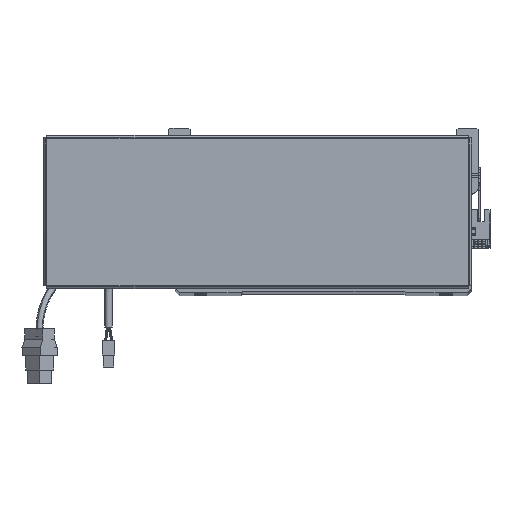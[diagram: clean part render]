
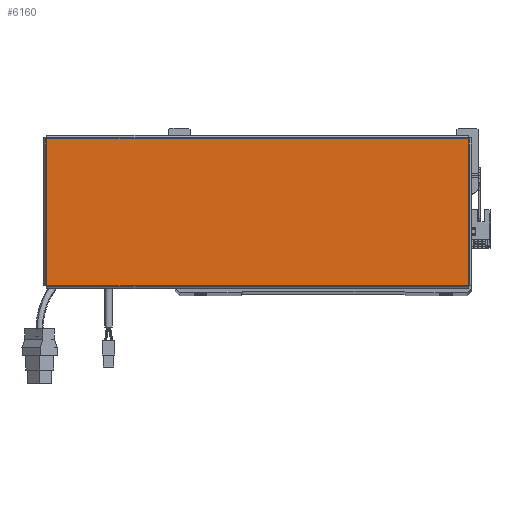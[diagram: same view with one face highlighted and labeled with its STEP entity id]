
A CAD part, top view. The second image highlights one B-rep face of the part: STEP entity #6160.
In plain terms, the highlighted planar face has unit normal (0, 0, 1).
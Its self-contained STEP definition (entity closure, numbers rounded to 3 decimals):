
#806 = DIRECTION ( 'NONE',  ( 0., 1., 0. ) ) ;
#1275 = CARTESIAN_POINT ( 'NONE',  ( 156.513, -54.793, 0. ) ) ;
#1489 = DIRECTION ( 'NONE',  ( 1., 0., 0. ) ) ;
#3374 = VECTOR ( 'NONE', #67604, 1000. ) ;
#4334 = LINE ( 'NONE', #50986, #48387 ) ;
#6160 = ADVANCED_FACE ( 'NONE', ( #29387 ), #44161, .T. ) ;
#7348 = AXIS2_PLACEMENT_3D ( 'NONE', #65763, #17619, #1489 ) ;
#10318 = CARTESIAN_POINT ( 'NONE',  ( 156.513, 54.763, 0. ) ) ;
#10759 = CARTESIAN_POINT ( 'NONE',  ( -156.513, 54.763, 0. ) ) ;
#17619 = DIRECTION ( 'NONE',  ( 0., 0., 1. ) ) ;
#19017 = VERTEX_POINT ( 'NONE', #48059 ) ;
#20860 = VECTOR ( 'NONE', #806, 1000. ) ;
#21262 = VERTEX_POINT ( 'NONE', #10759 ) ;
#24348 = EDGE_CURVE ( 'NONE', #19017, #70278, #70018, .T. ) ;
#28685 = EDGE_CURVE ( 'NONE', #38978, #19017, #4334, .T. ) ;
#28971 = DIRECTION ( 'NONE',  ( 1., 0., 0. ) ) ;
#29387 = FACE_OUTER_BOUND ( 'NONE', #30155, .T. ) ;
#30155 = EDGE_LOOP ( 'NONE', ( #36416, #46358, #49234, #41459 ) ) ;
#33893 = LINE ( 'NONE', #65608, #3374 ) ;
#36231 = LINE ( 'NONE', #68978, #52350 ) ;
#36416 = ORIENTED_EDGE ( 'NONE', *, *, #28685, .T. ) ;
#38978 = VERTEX_POINT ( 'NONE', #53013 ) ;
#41459 = ORIENTED_EDGE ( 'NONE', *, *, #46965, .T. ) ;
#44161 = PLANE ( 'NONE',  #7348 ) ;
#46358 = ORIENTED_EDGE ( 'NONE', *, *, #24348, .T. ) ;
#46965 = EDGE_CURVE ( 'NONE', #21262, #38978, #33893, .T. ) ;
#48059 = CARTESIAN_POINT ( 'NONE',  ( 156.513, -54.763, 0. ) ) ;
#48387 = VECTOR ( 'NONE', #28971, 1000. ) ;
#49234 = ORIENTED_EDGE ( 'NONE', *, *, #56392, .T. ) ;
#50986 = CARTESIAN_POINT ( 'NONE',  ( -156.543, -54.763, 0. ) ) ;
#52350 = VECTOR ( 'NONE', #58764, 1000. ) ;
#53013 = CARTESIAN_POINT ( 'NONE',  ( -156.513, -54.763, 0. ) ) ;
#56392 = EDGE_CURVE ( 'NONE', #70278, #21262, #36231, .T. ) ;
#58764 = DIRECTION ( 'NONE',  ( -1., 0., 0. ) ) ;
#65608 = CARTESIAN_POINT ( 'NONE',  ( -156.513, 54.793, 0. ) ) ;
#65763 = CARTESIAN_POINT ( 'NONE',  ( 0., 0., 0. ) ) ;
#67604 = DIRECTION ( 'NONE',  ( 0., -1., 0. ) ) ;
#68978 = CARTESIAN_POINT ( 'NONE',  ( 156.543, 54.763, 0. ) ) ;
#70018 = LINE ( 'NONE', #1275, #20860 ) ;
#70278 = VERTEX_POINT ( 'NONE', #10318 ) ;
